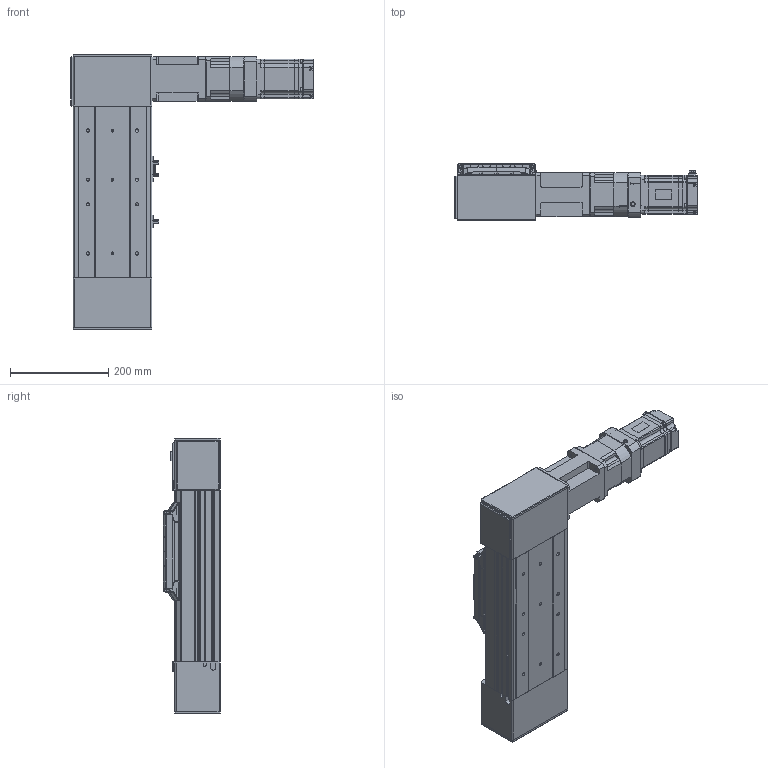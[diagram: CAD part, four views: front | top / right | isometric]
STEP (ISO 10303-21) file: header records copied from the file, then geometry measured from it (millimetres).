
FILE_DESCRIPTION (( 'STEP AP203' ), '1' );
FILE_NAME ('PCB160SRN-0000-ST100-75NR00-N-I3R.STEP', '2015-10-22T06:56:08', ( '' ), ( '' ), 'SwSTEP 2.0', 'SolidWorks 2012', '' );
FILE_SCHEMA (( 'CONFIG_CONTROL_DESIGN' ));
Products named in the file (14): PCB160SRN-0000-ST100-75NR00-N-I3R; jc48c; sgmjv_08a_a21; MOTOR BRACKET 750W; PGX90-H-1_3; EE_SX672; PCB160-Carrier Assy; PCB160-Carrier UPPER COVER; PCB160-Carrier END COVER; PCB160-Carrier; PCB160-Sensor Dog; PCB160-Drive Pulley Block S; PCB160-Idler Pulley Block; PCB160-100ST BASE
Assembly tree (16 placements, depth 3):
  PCB160SRN-0000-ST100-75NR00-N-I3R
    PCB160-100ST BASE
    PCB160-Drive Pulley Block S
    PCB160-Idler Pulley Block
    PCB160-Carrier Assy
      PCB160-Carrier
      PCB160-Sensor Dog
      PCB160-Carrier END COVER  x2
      PCB160-Carrier UPPER COVER
    EE_SX672  x3
    MOTOR BRACKET 750W
    PGX90-H-1_3
    sgmjv_08a_a21
    jc48c
Bounding box: 493.6 x 116 x 560 mm (x, y, z)
Volume: 9597560.3 mm3; surface area: 1123954.4 mm2
Topology: 39 solids, 39 shells, 3260 faces, 8661 edges, 5522 vertices
Faces by surface type: plane 1838, cylinder 1028, cone 213, bspline 105, sphere 40, torus 36
Entity records: 91937 total; most frequent: CARTESIAN_POINT 21645, ORIENTED_EDGE 14578, DIRECTION 13973, EDGE_CURVE 7289, LINE 4757, VECTOR 4757, VERTEX_POINT 4710, AXIS2_PLACEMENT_3D 4608
